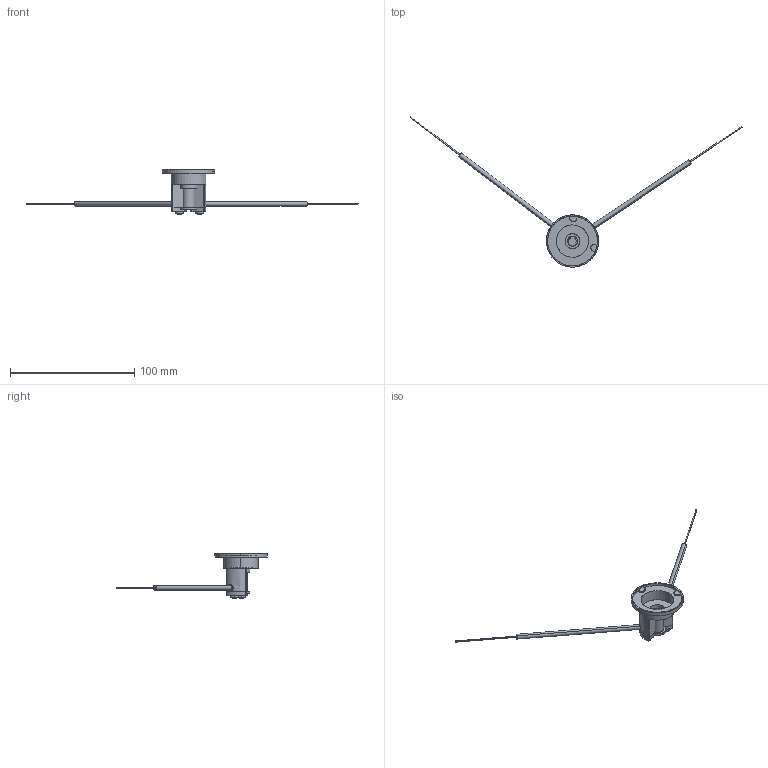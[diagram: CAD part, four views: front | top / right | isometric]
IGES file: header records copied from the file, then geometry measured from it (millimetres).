
Start section: SolidWorks IGES file using analytic representation for surfaces
Global section: file name: C:\Users\Toshiba\Desktop\FU-10PRN.IGS; native system: SolidWorks 2014; preprocessor: SolidWorks 2014; author: Toshiba; date: 160621.093932; units: metre
Bounding box: 266.94 x 120.92 x 36.41 mm (x, y, z)
Surface area: 12453.1 mm2 (no closed solid volume)
Topology: 0 solids, 0 shells, 178 faces, 2686 edges, 2684 vertices
Faces by surface type: bspline 90, revolution 88
